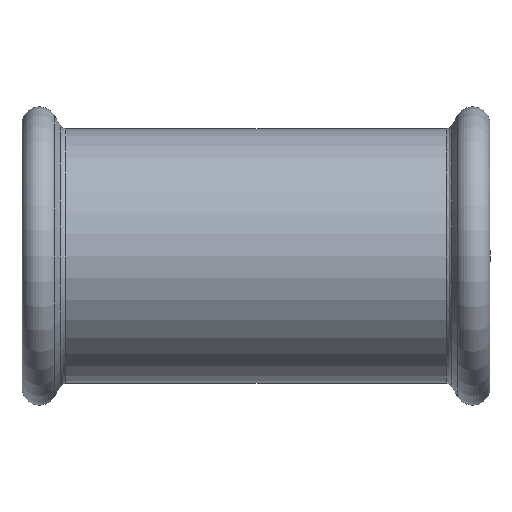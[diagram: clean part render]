
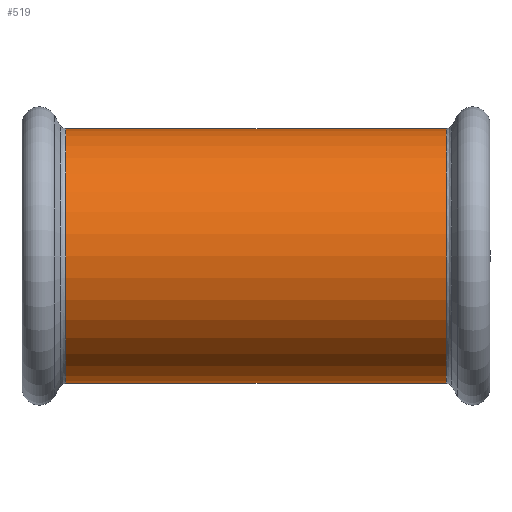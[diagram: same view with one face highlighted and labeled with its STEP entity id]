
A CAD part, front view. The second image highlights one B-rep face of the part: STEP entity #519.
In plain terms, the highlighted cylindrical face has radius 40.3 mm (diameter 80.6 mm), a full revolution.
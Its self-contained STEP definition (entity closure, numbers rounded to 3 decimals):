
#485=CARTESIAN_POINT('',(-60.215,40.3,0.0));
#486=VERTEX_POINT('',#485);
#487=CARTESIAN_POINT('',(-60.215,0.,0.0));
#488=DIRECTION('',(1.0,0.0,0.0));
#489=DIRECTION('',(0.0,1.0,0.0));
#490=AXIS2_PLACEMENT_3D('',#487,#488,#489);
#491=CIRCLE('',#490,40.3);
#492=EDGE_CURVE('',#486,#486,#491,.T.);
#500=CARTESIAN_POINT('',(0.0,0.0,0.0));
#501=DIRECTION('',(1.0,0.,0.0));
#502=DIRECTION('',(0.0,1.0,0.0));
#503=AXIS2_PLACEMENT_3D('',#500,#501,#502);
#504=CYLINDRICAL_SURFACE('',#503,40.3);
#505=CARTESIAN_POINT('',(60.215,40.3,0.0));
#506=VERTEX_POINT('',#505);
#507=CARTESIAN_POINT('',(60.215,0.,0.0));
#508=DIRECTION('',(1.0,0.0,0.0));
#509=DIRECTION('',(0.0,1.0,0.0));
#510=AXIS2_PLACEMENT_3D('',#507,#508,#509);
#511=CIRCLE('',#510,40.3);
#512=EDGE_CURVE('',#506,#506,#511,.T.);
#513=ORIENTED_EDGE('',*,*,#512,.F.);
#514=EDGE_LOOP('',(#513));
#515=FACE_OUTER_BOUND('',#514,.T.);
#516=ORIENTED_EDGE('',*,*,#492,.T.);
#517=EDGE_LOOP('',(#516));
#518=FACE_BOUND('',#517,.T.);
#519=ADVANCED_FACE('',(#515,#518),#504,.T.);
